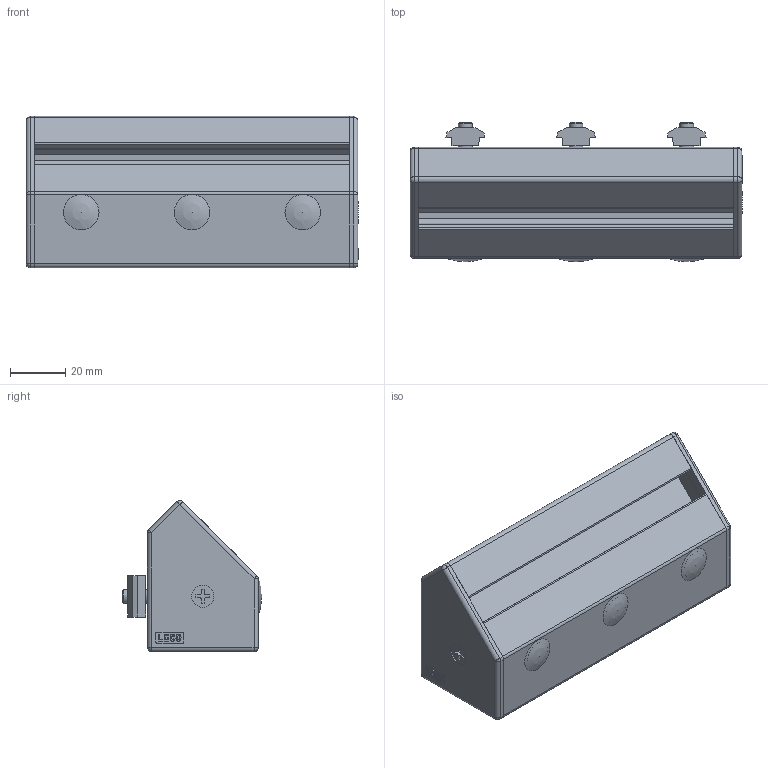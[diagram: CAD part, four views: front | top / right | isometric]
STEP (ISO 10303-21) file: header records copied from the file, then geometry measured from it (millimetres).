
FILE_DESCRIPTION(('STEP AP214'),'1');
FILE_NAME('PB4BA-L120.stp','2021-02-08T09:18:32',(' '),(' '),'Spatial InterOp 3D',' ',' ');
FILE_SCHEMA(('automotive_design'));
Length unit declared in the file: millimetre
Products named in the file (13): PB4BA-L120; PB4HA-120; M5×25CS; NF40-M5; CP10; E40A-R; E40A-L
Assembly tree (12 placements, depth 2):
  PB4BA-L120
    PB4HA-120
    M5×25CS
    NF40-M5
    CP10
    E40A-R
    E40A-L
    M5×25CS
    NF40-M5
    M5×25CS
    NF40-M5
    CP10
    CP10
Bounding box: 120 x 50.38 x 54.66 mm (x, y, z)
Volume: 81315.2 mm3; surface area: 75974.9 mm2
Topology: 12 solids, 12 shells, 650 faces, 1688 edges, 1062 vertices
Faces by surface type: plane 335, cylinder 230, bspline 40, sphere 25, torus 11, cone 9
Full cylindrical faces by diameter (mm): 5 x6, 5.1 x3, 7.2 x3, 8 x2, 8.5 x3, 10 x6, 10.2 x3
Entity records: 30251 total; most frequent: CARTESIAN_POINT 8996, DIRECTION 3357, ORIENTED_EDGE 3214, EDGE_CURVE 1607, AXIS2_PLACEMENT_3D 1171, VERTEX_POINT 1048, LINE 1015, VECTOR 1015
